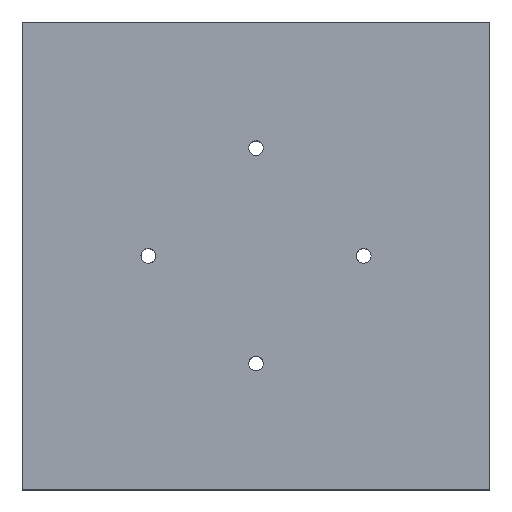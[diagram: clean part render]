
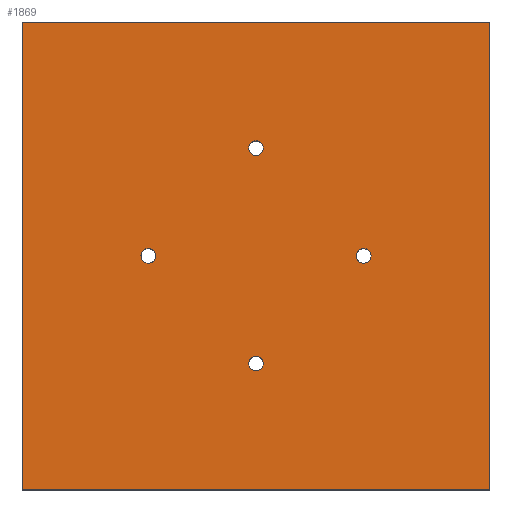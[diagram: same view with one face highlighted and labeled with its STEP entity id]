
A CAD part, top view. The second image highlights one B-rep face of the part: STEP entity #1869.
In plain terms, the highlighted planar face has unit normal (0, 0, 1).
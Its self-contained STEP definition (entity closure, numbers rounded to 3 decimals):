
#6 = EDGE_LOOP ( 'NONE', ( #965, #326 ) ) ;
#59 = CARTESIAN_POINT ( 'NONE',  ( -14.5, 0., 12.5 ) ) ;
#64 = CARTESIAN_POINT ( 'NONE',  ( -31.5, 31.5, 12.5 ) ) ;
#92 = CARTESIAN_POINT ( 'NONE',  ( -31.5, 31.5, 12.5 ) ) ;
#115 = VERTEX_POINT ( 'NONE', #1514 ) ;
#129 = FACE_BOUND ( 'NONE', #375, .T. ) ;
#134 = EDGE_CURVE ( 'NONE', #1819, #462, #273, .T. ) ;
#142 = DIRECTION ( 'NONE',  ( 0., 0., 1. ) ) ;
#180 = VERTEX_POINT ( 'NONE', #1847 ) ;
#194 = AXIS2_PLACEMENT_3D ( 'NONE', #59, #1528, #702 ) ;
#213 = VERTEX_POINT ( 'NONE', #1686 ) ;
#222 = VERTEX_POINT ( 'NONE', #425 ) ;
#239 = CARTESIAN_POINT ( 'NONE',  ( -14.5, 0., 12.5 ) ) ;
#247 = CARTESIAN_POINT ( 'NONE',  ( 0., -14.5, 12.5 ) ) ;
#257 = EDGE_CURVE ( 'NONE', #213, #1133, #939, .T. ) ;
#273 = CIRCLE ( 'NONE', #1161, 1. ) ;
#305 = FACE_BOUND ( 'NONE', #1616, .T. ) ;
#325 = ORIENTED_EDGE ( 'NONE', *, *, #1529, .F. ) ;
#326 = ORIENTED_EDGE ( 'NONE', *, *, #1112, .F. ) ;
#327 = CARTESIAN_POINT ( 'NONE',  ( 1., 14.5, 12.5 ) ) ;
#346 = CIRCLE ( 'NONE', #2064, 1. ) ;
#369 = CARTESIAN_POINT ( 'NONE',  ( 0., 14.5, 12.5 ) ) ;
#375 = EDGE_LOOP ( 'NONE', ( #1815, #1445 ) ) ;
#379 = AXIS2_PLACEMENT_3D ( 'NONE', #247, #1866, #1066 ) ;
#405 = LINE ( 'NONE', #64, #1790 ) ;
#425 = CARTESIAN_POINT ( 'NONE',  ( -13.5, 0., 12.5 ) ) ;
#462 = VERTEX_POINT ( 'NONE', #711 ) ;
#465 = CIRCLE ( 'NONE', #194, 1. ) ;
#468 = VERTEX_POINT ( 'NONE', #1175 ) ;
#485 = DIRECTION ( 'NONE',  ( 1., 0., 0. ) ) ;
#492 = ORIENTED_EDGE ( 'NONE', *, *, #257, .T. ) ;
#546 = DIRECTION ( 'NONE',  ( 0., 0., 1. ) ) ;
#592 = DIRECTION ( 'NONE',  ( 1., 0., 0. ) ) ;
#665 = DIRECTION ( 'NONE',  ( 0., 1., 0. ) ) ;
#702 = DIRECTION ( 'NONE',  ( 1., 0., 0. ) ) ;
#711 = CARTESIAN_POINT ( 'NONE',  ( -1., 14.5, 12.5 ) ) ;
#788 = ORIENTED_EDGE ( 'NONE', *, *, #1040, .T. ) ;
#791 = CIRCLE ( 'NONE', #1891, 1. ) ;
#793 = FACE_OUTER_BOUND ( 'NONE', #1945, .T. ) ;
#794 = EDGE_LOOP ( 'NONE', ( #1589, #1256 ) ) ;
#848 = AXIS2_PLACEMENT_3D ( 'NONE', #1113, #1401, #1237 ) ;
#853 = DIRECTION ( 'NONE',  ( 1., 0., 0. ) ) ;
#889 = EDGE_CURVE ( 'NONE', #1453, #222, #1258, .T. ) ;
#890 = EDGE_CURVE ( 'NONE', #222, #1453, #465, .T. ) ;
#902 = DIRECTION ( 'NONE',  ( -1., 0., 0. ) ) ;
#938 = CARTESIAN_POINT ( 'NONE',  ( -31.5, 31.5, 12.5 ) ) ;
#939 = LINE ( 'NONE', #1147, #1556 ) ;
#944 = FACE_BOUND ( 'NONE', #6, .T. ) ;
#965 = ORIENTED_EDGE ( 'NONE', *, *, #1784, .F. ) ;
#1013 = CIRCLE ( 'NONE', #1184, 1. ) ;
#1026 = DIRECTION ( 'NONE',  ( 1., 0., 0. ) ) ;
#1039 = EDGE_CURVE ( 'NONE', #1097, #468, #1720, .T. ) ;
#1040 = EDGE_CURVE ( 'NONE', #468, #213, #2063, .T. ) ;
#1053 = CARTESIAN_POINT ( 'NONE',  ( 31.5, 31.5, 12.5 ) ) ;
#1057 = DIRECTION ( 'NONE',  ( 0., 0., 1. ) ) ;
#1066 = DIRECTION ( 'NONE',  ( 1., 0., 0. ) ) ;
#1097 = VERTEX_POINT ( 'NONE', #92 ) ;
#1112 = EDGE_CURVE ( 'NONE', #180, #115, #1013, .T. ) ;
#1113 = CARTESIAN_POINT ( 'NONE',  ( 14.5, 0., 12.5 ) ) ;
#1123 = AXIS2_PLACEMENT_3D ( 'NONE', #1260, #142, #485 ) ;
#1130 = CARTESIAN_POINT ( 'NONE',  ( -15.5, 0., 12.5 ) ) ;
#1133 = VERTEX_POINT ( 'NONE', #1053 ) ;
#1134 = CARTESIAN_POINT ( 'NONE',  ( 0., -14.5, 12.5 ) ) ;
#1142 = ORIENTED_EDGE ( 'NONE', *, *, #1697, .T. ) ;
#1147 = CARTESIAN_POINT ( 'NONE',  ( 31.5, 31.5, 12.5 ) ) ;
#1152 = DIRECTION ( 'NONE',  ( 0., 0., 1. ) ) ;
#1161 = AXIS2_PLACEMENT_3D ( 'NONE', #1975, #1057, #1026 ) ;
#1175 = CARTESIAN_POINT ( 'NONE',  ( -31.5, -31.5, 12.5 ) ) ;
#1184 = AXIS2_PLACEMENT_3D ( 'NONE', #1344, #2026, #853 ) ;
#1237 = DIRECTION ( 'NONE',  ( 1., 0., 0. ) ) ;
#1256 = ORIENTED_EDGE ( 'NONE', *, *, #889, .F. ) ;
#1258 = CIRCLE ( 'NONE', #1516, 1. ) ;
#1260 = CARTESIAN_POINT ( 'NONE',  ( 0., 0., 12.5 ) ) ;
#1273 = VERTEX_POINT ( 'NONE', #2055 ) ;
#1331 = DIRECTION ( 'NONE',  ( 0., 0., 1. ) ) ;
#1344 = CARTESIAN_POINT ( 'NONE',  ( 14.5, 0., 12.5 ) ) ;
#1350 = CIRCLE ( 'NONE', #379, 1. ) ;
#1385 = CIRCLE ( 'NONE', #848, 1. ) ;
#1401 = DIRECTION ( 'NONE',  ( 0., 0., 1. ) ) ;
#1420 = DIRECTION ( 'NONE',  ( 0., -1., 0. ) ) ;
#1445 = ORIENTED_EDGE ( 'NONE', *, *, #1753, .F. ) ;
#1453 = VERTEX_POINT ( 'NONE', #1130 ) ;
#1514 = CARTESIAN_POINT ( 'NONE',  ( 15.5, 0., 12.5 ) ) ;
#1516 = AXIS2_PLACEMENT_3D ( 'NONE', #239, #546, #592 ) ;
#1528 = DIRECTION ( 'NONE',  ( 0., 0., 1. ) ) ;
#1529 = EDGE_CURVE ( 'NONE', #462, #1819, #346, .T. ) ;
#1545 = ORIENTED_EDGE ( 'NONE', *, *, #1039, .T. ) ;
#1556 = VECTOR ( 'NONE', #665, 1000. ) ;
#1557 = FACE_BOUND ( 'NONE', #794, .T. ) ;
#1589 = ORIENTED_EDGE ( 'NONE', *, *, #890, .F. ) ;
#1600 = ORIENTED_EDGE ( 'NONE', *, *, #134, .F. ) ;
#1616 = EDGE_LOOP ( 'NONE', ( #1600, #325 ) ) ;
#1686 = CARTESIAN_POINT ( 'NONE',  ( 31.5, -31.5, 12.5 ) ) ;
#1688 = DIRECTION ( 'NONE',  ( 1., 0., 0. ) ) ;
#1697 = EDGE_CURVE ( 'NONE', #1133, #1097, #405, .T. ) ;
#1707 = CARTESIAN_POINT ( 'NONE',  ( -31.5, -31.5, 12.5 ) ) ;
#1720 = LINE ( 'NONE', #938, #1835 ) ;
#1726 = VERTEX_POINT ( 'NONE', #2029 ) ;
#1753 = EDGE_CURVE ( 'NONE', #1273, #1726, #1350, .T. ) ;
#1771 = DIRECTION ( 'NONE',  ( 1., 0., 0. ) ) ;
#1784 = EDGE_CURVE ( 'NONE', #115, #180, #1385, .T. ) ;
#1790 = VECTOR ( 'NONE', #902, 1000. ) ;
#1815 = ORIENTED_EDGE ( 'NONE', *, *, #1914, .F. ) ;
#1819 = VERTEX_POINT ( 'NONE', #327 ) ;
#1835 = VECTOR ( 'NONE', #1420, 1000. ) ;
#1847 = CARTESIAN_POINT ( 'NONE',  ( 13.5, 0., 12.5 ) ) ;
#1866 = DIRECTION ( 'NONE',  ( 0., 0., 1. ) ) ;
#1869 = ADVANCED_FACE ( 'NONE', ( #305, #944, #129, #1557, #793 ), #2059, .T. ) ;
#1891 = AXIS2_PLACEMENT_3D ( 'NONE', #1134, #1152, #1771 ) ;
#1914 = EDGE_CURVE ( 'NONE', #1726, #1273, #791, .T. ) ;
#1945 = EDGE_LOOP ( 'NONE', ( #1545, #788, #492, #1142 ) ) ;
#1971 = DIRECTION ( 'NONE',  ( 1., 0., 0. ) ) ;
#1975 = CARTESIAN_POINT ( 'NONE',  ( 0., 14.5, 12.5 ) ) ;
#1995 = VECTOR ( 'NONE', #1688, 1000. ) ;
#2026 = DIRECTION ( 'NONE',  ( 0., 0., 1. ) ) ;
#2029 = CARTESIAN_POINT ( 'NONE',  ( 1., -14.5, 12.5 ) ) ;
#2055 = CARTESIAN_POINT ( 'NONE',  ( -1., -14.5, 12.5 ) ) ;
#2059 = PLANE ( 'NONE',  #1123 ) ;
#2063 = LINE ( 'NONE', #1707, #1995 ) ;
#2064 = AXIS2_PLACEMENT_3D ( 'NONE', #369, #1331, #1971 ) ;
